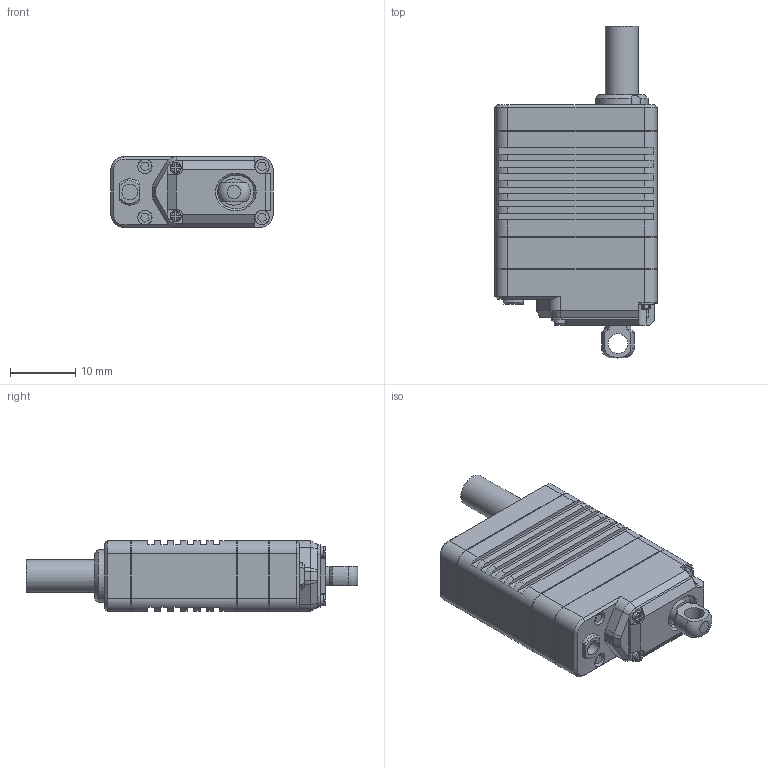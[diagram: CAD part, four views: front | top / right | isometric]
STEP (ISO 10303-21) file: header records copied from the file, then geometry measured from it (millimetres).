
FILE_DESCRIPTION (( 'STEP AP203' ), '1' );
FILE_NAME ('LAS10-0x3D.STEP', '2024-09-19T03:51:01', ( '' ), ( '' ), 'SwSTEP 2.0', 'SolidWorks 2021', '' );
FILE_SCHEMA (( 'CONFIG_CONTROL_DESIGN' ));
Length unit declared in the file: millimetre
Products named in the file (4): ACBO-S30; LAS10-0x3D; Part1^LAS10-0x3D; exA820109-015祥凄詩杶奪
Assembly tree (3 placements, depth 2):
  LAS10-0x3D
    Part1^LAS10-0x3D
    exA820109-015祥凄詩杶奪
    ACBO-S30
Bounding box: 24.8 x 50.7 x 10.8 mm (x, y, z)
Volume: 8541.3 mm3; surface area: 4035.5 mm2
Topology: 3 solids, 15 shells, 533 faces, 1315 edges, 837 vertices
Faces by surface type: plane 352, cylinder 102, cone 50, torus 29
Full cylindrical faces by diameter (mm): 0.95 x2, 1 x6, 1.1 x6, 1.2 x8, 1.221 x4, 1.7 x10, 2 x4, 2.17 x4, 2.2 x8, 2.4 x1, 2.5 x1, 3 x1, 4 x1, 5 x2
Entity records: 15571 total; most frequent: CARTESIAN_POINT 2962, DIRECTION 2563, ORIENTED_EDGE 2408, EDGE_CURVE 1204, AXIS2_PLACEMENT_3D 908, VERTEX_POINT 799, VECTOR 747, LINE 747
